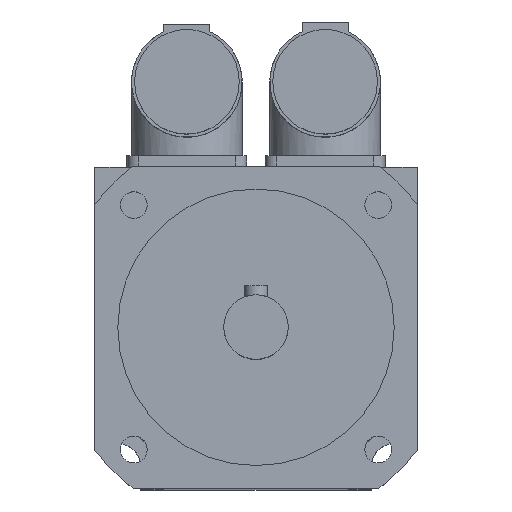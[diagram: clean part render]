
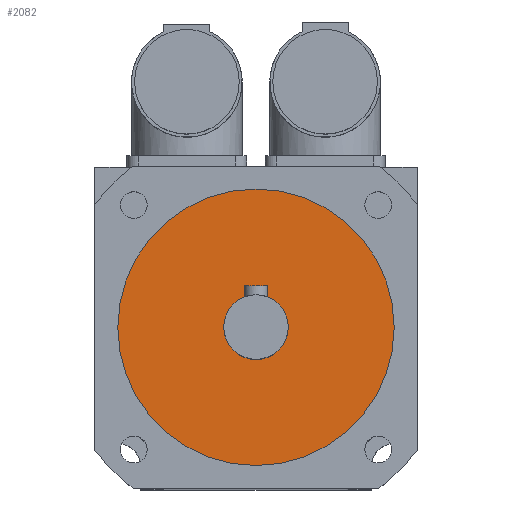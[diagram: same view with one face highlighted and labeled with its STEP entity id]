
A CAD part, top view. The second image highlights one B-rep face of the part: STEP entity #2082.
In plain terms, the highlighted planar face has unit normal (0, 0, 1).
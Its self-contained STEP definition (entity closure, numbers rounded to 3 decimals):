
#36=FACE_BOUND('',#359,.T.);
#61=CIRCLE('',#2206,7.);
#62=CIRCLE('',#2209,30.);
#234=FACE_OUTER_BOUND('',#358,.T.);
#358=EDGE_LOOP('',(#1420));
#359=EDGE_LOOP('',(#1421));
#878=VERTEX_POINT('',#3179);
#879=VERTEX_POINT('',#3183);
#1092=EDGE_CURVE('',#878,#878,#61,.T.);
#1093=EDGE_CURVE('',#879,#879,#62,.T.);
#1420=ORIENTED_EDGE('',*,*,#1093,.T.);
#1421=ORIENTED_EDGE('',*,*,#1092,.T.);
#2019=PLANE('',#2211);
#2082=ADVANCED_FACE('',(#234,#36),#2019,.T.);
#2206=AXIS2_PLACEMENT_3D('',#3180,#2468,#2469);
#2209=AXIS2_PLACEMENT_3D('',#3184,#2474,#2475);
#2211=AXIS2_PLACEMENT_3D('',#3187,#2478,#2479);
#2468=DIRECTION('center_axis',(0.,0.,-1.));
#2469=DIRECTION('ref_axis',(-1.,0.,0.));
#2474=DIRECTION('center_axis',(0.,0.,1.));
#2475=DIRECTION('ref_axis',(-1.,0.,0.));
#2478=DIRECTION('center_axis',(0.,0.,1.));
#2479=DIRECTION('ref_axis',(1.,0.,0.));
#3179=CARTESIAN_POINT('',(7.,0.,163.));
#3180=CARTESIAN_POINT('Origin',(0.,0.,163.));
#3183=CARTESIAN_POINT('',(30.,0.,163.));
#3184=CARTESIAN_POINT('Origin',(0.,0.,163.));
#3187=CARTESIAN_POINT('Origin',(0.,0.,
163.));
